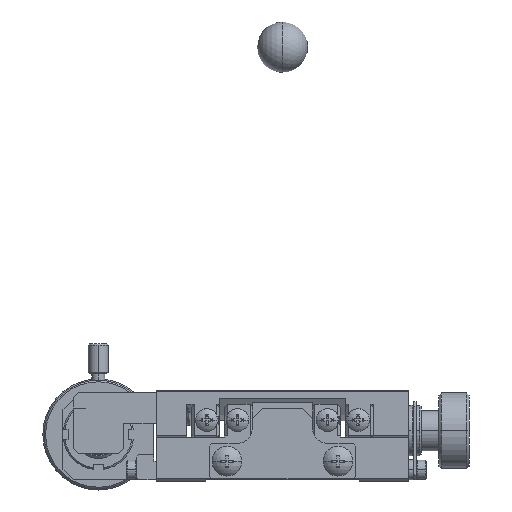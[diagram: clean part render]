
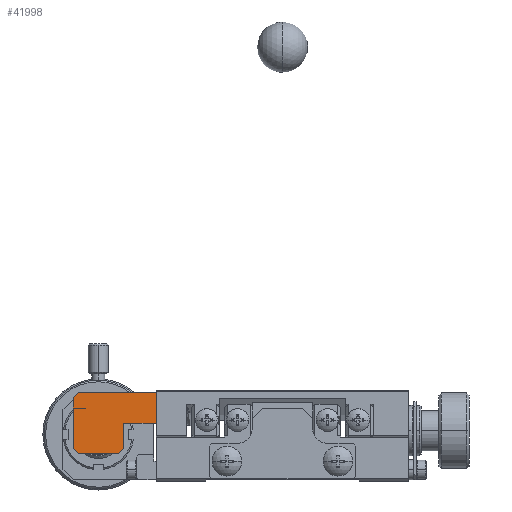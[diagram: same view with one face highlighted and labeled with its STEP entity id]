
A CAD part, left-side view. The second image highlights one B-rep face of the part: STEP entity #41998.
In plain terms, the highlighted planar face has unit normal (-1, 0, 0).
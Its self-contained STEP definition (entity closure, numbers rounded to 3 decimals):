
#40622 = VERTEX_POINT ( 'NONE', #46052 ) ;
#40625 = EDGE_CURVE ( 'NONE', #40622, #40626, #46047, .T. ) ;
#40626 = VERTEX_POINT ( 'NONE', #46039 ) ;
#41915 = EDGE_CURVE ( 'NONE', #40626, #41916, #50601, .T. ) ;
#41916 = VERTEX_POINT ( 'NONE', #50588 ) ;
#41960 = VERTEX_POINT ( 'NONE', #50813 ) ;
#41961 = ORIENTED_EDGE ( 'NONE', *, *, #41962, .F. ) ;
#41962 = EDGE_CURVE ( 'NONE', #41963, #41960, #50807, .T. ) ;
#41963 = VERTEX_POINT ( 'NONE', #50802 ) ;
#41964 = ORIENTED_EDGE ( 'NONE', *, *, #41965, .F. ) ;
#41965 = EDGE_CURVE ( 'NONE', #41966, #41963, #50796, .T. ) ;
#41966 = VERTEX_POINT ( 'NONE', #50792 ) ;
#41967 = ORIENTED_EDGE ( 'NONE', *, *, #41968, .F. ) ;
#41968 = EDGE_CURVE ( 'NONE', #41916, #41966, #50787, .T. ) ;
#41975 = ORIENTED_EDGE ( 'NONE', *, *, #40625, .F. ) ;
#41976 = ORIENTED_EDGE ( 'NONE', *, *, #41977, .F. ) ;
#41977 = EDGE_CURVE ( 'NONE', #41978, #40622, #50885, .T. ) ;
#41978 = VERTEX_POINT ( 'NONE', #50880 ) ;
#41979 = ORIENTED_EDGE ( 'NONE', *, *, #41980, .F. ) ;
#41980 = EDGE_CURVE ( 'NONE', #41981, #41978, #50875, .T. ) ;
#41981 = VERTEX_POINT ( 'NONE', #50869 ) ;
#41982 = ORIENTED_EDGE ( 'NONE', *, *, #41983, .F. ) ;
#41983 = EDGE_CURVE ( 'NONE', #41984, #41981, #50865, .T. ) ;
#41984 = VERTEX_POINT ( 'NONE', #50858 ) ;
#41985 = ORIENTED_EDGE ( 'NONE', *, *, #41986, .F. ) ;
#41986 = EDGE_CURVE ( 'NONE', #41960, #41984, #50856, .T. ) ;
#41998 = ADVANCED_FACE ( 'NONE', ( #50944 ), #50938, .T. ) ;
#41999 = EDGE_LOOP ( 'NONE', ( #42000, #41975, #41976, #41979, #41982, #41985, #41961, #41964, #41967 ) ) ;
#42000 = ORIENTED_EDGE ( 'NONE', *, *, #41915, .F. ) ;
#46039 = CARTESIAN_POINT ( 'NONE',  ( -12.5, 25., -6.5 ) ) ;
#46042 = DIRECTION ( 'NONE',  ( 0., 0., -1. ) ) ;
#46043 = VECTOR ( 'NONE', #46042, 1000. ) ;
#46045 = CARTESIAN_POINT ( 'NONE',  ( -12.5, 25., -0.5 ) ) ;
#46047 = LINE ( 'NONE', #46045, #46043 ) ;
#46052 = CARTESIAN_POINT ( 'NONE',  ( -12.5, 25., -0.5 ) ) ;
#50588 = CARTESIAN_POINT ( 'NONE',  ( -12.5, 31.5, -6.5 ) ) ;
#50589 = DIRECTION ( 'NONE',  ( 0., 1., 0. ) ) ;
#50590 = VECTOR ( 'NONE', #50589, 1000. ) ;
#50592 = CARTESIAN_POINT ( 'NONE',  ( -12.5, 25., -6.5 ) ) ;
#50601 = LINE ( 'NONE', #50592, #50590 ) ;
#50783 = DIRECTION ( 'NONE',  ( 0., 0., -1. ) ) ;
#50784 = VECTOR ( 'NONE', #50783, 1000. ) ;
#50785 = CARTESIAN_POINT ( 'NONE',  ( -12.5, 31.5, -6.5 ) ) ;
#50787 = LINE ( 'NONE', #50785, #50784 ) ;
#50792 = CARTESIAN_POINT ( 'NONE',  ( -12.5, 31.5, -11.5 ) ) ;
#50793 = DIRECTION ( 'NONE',  ( 0., 0.707, -0.707 ) ) ;
#50794 = VECTOR ( 'NONE', #50793, 1000. ) ;
#50795 = CARTESIAN_POINT ( 'NONE',  ( -12.5, 31.5, -11.5 ) ) ;
#50796 = LINE ( 'NONE', #50795, #50794 ) ;
#50802 = CARTESIAN_POINT ( 'NONE',  ( -12.5, 32.5, -12.5 ) ) ;
#50803 = DIRECTION ( 'NONE',  ( 0., 1., 0. ) ) ;
#50804 = VECTOR ( 'NONE', #50803, 1000. ) ;
#50805 = CARTESIAN_POINT ( 'NONE',  ( -12.5, 32.5, -12.5 ) ) ;
#50807 = LINE ( 'NONE', #50805, #50804 ) ;
#50813 = CARTESIAN_POINT ( 'NONE',  ( -12.5, 40.5, -12.5 ) ) ;
#50851 = DIRECTION ( 'NONE',  ( 0., 0.707, 0.707 ) ) ;
#50852 = VECTOR ( 'NONE', #50851, 1000. ) ;
#50854 = CARTESIAN_POINT ( 'NONE',  ( -12.5, 40.5, -12.5 ) ) ;
#50856 = LINE ( 'NONE', #50854, #50852 ) ;
#50858 = CARTESIAN_POINT ( 'NONE',  ( -12.5, 41.5, -11.5 ) ) ;
#50860 = DIRECTION ( 'NONE',  ( 0., 0., 1. ) ) ;
#50861 = VECTOR ( 'NONE', #50860, 1000. ) ;
#50863 = CARTESIAN_POINT ( 'NONE',  ( -12.5, 41.5, -11.5 ) ) ;
#50865 = LINE ( 'NONE', #50863, #50861 ) ;
#50869 = CARTESIAN_POINT ( 'NONE',  ( -12.5, 41.5, -1.5 ) ) ;
#50872 = DIRECTION ( 'NONE',  ( 0., -0.707, 0.707 ) ) ;
#50873 = VECTOR ( 'NONE', #50872, 1000. ) ;
#50874 = CARTESIAN_POINT ( 'NONE',  ( -12.5, 41.5, -1.5 ) ) ;
#50875 = LINE ( 'NONE', #50874, #50873 ) ;
#50880 = CARTESIAN_POINT ( 'NONE',  ( -12.5, 40.5, -0.5 ) ) ;
#50882 = DIRECTION ( 'NONE',  ( 0., -1., 0. ) ) ;
#50883 = VECTOR ( 'NONE', #50882, 1000. ) ;
#50884 = CARTESIAN_POINT ( 'NONE',  ( -12.5, 40.5, -0.5 ) ) ;
#50885 = LINE ( 'NONE', #50884, #50883 ) ;
#50933 = DIRECTION ( 'NONE',  ( 0., 1., 0. ) ) ;
#50934 = DIRECTION ( 'NONE',  ( -1., 0., 0. ) ) ;
#50935 = CARTESIAN_POINT ( 'NONE',  ( -12.5, 31.5, -6.5 ) ) ;
#50936 = AXIS2_PLACEMENT_3D ( 'NONE', #50935, #50934, #50933 ) ;
#50938 = PLANE ( 'NONE',  #50936 ) ;
#50944 = FACE_OUTER_BOUND ( 'NONE', #41999, .T. ) ;
